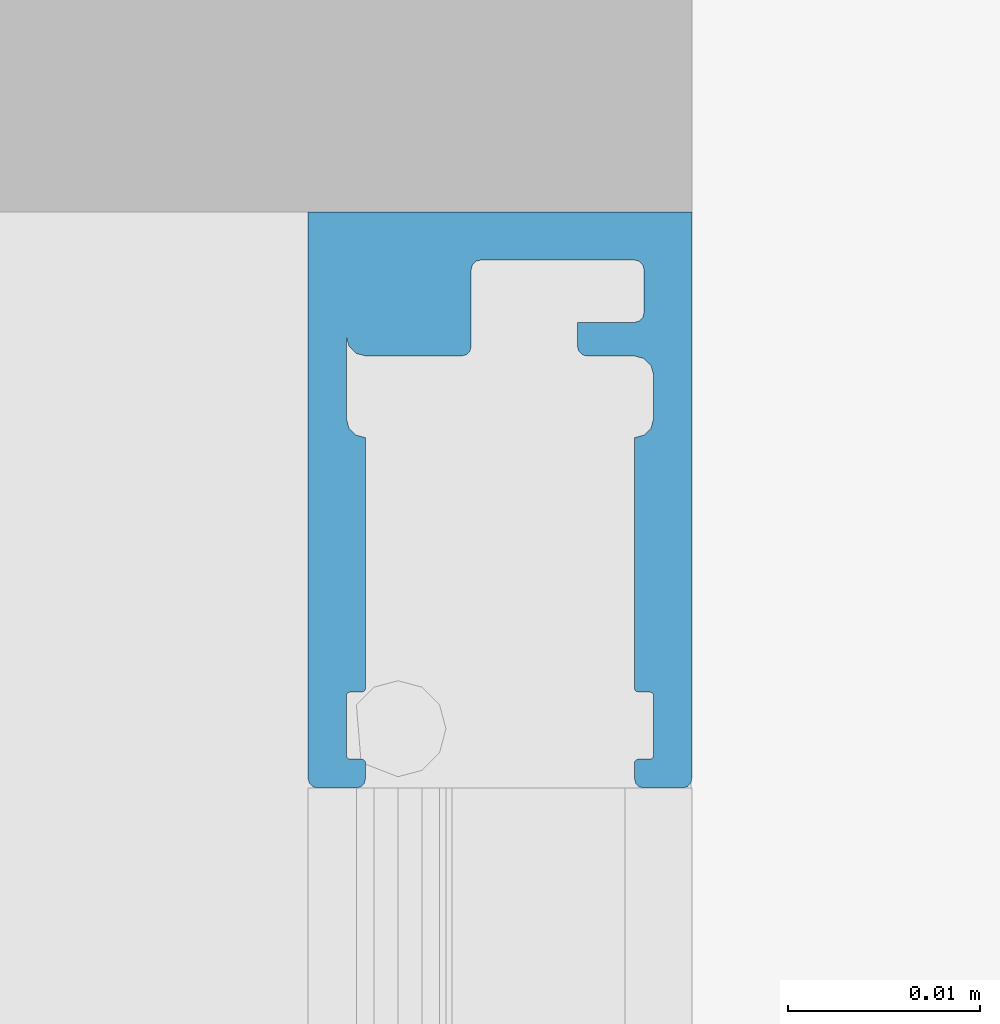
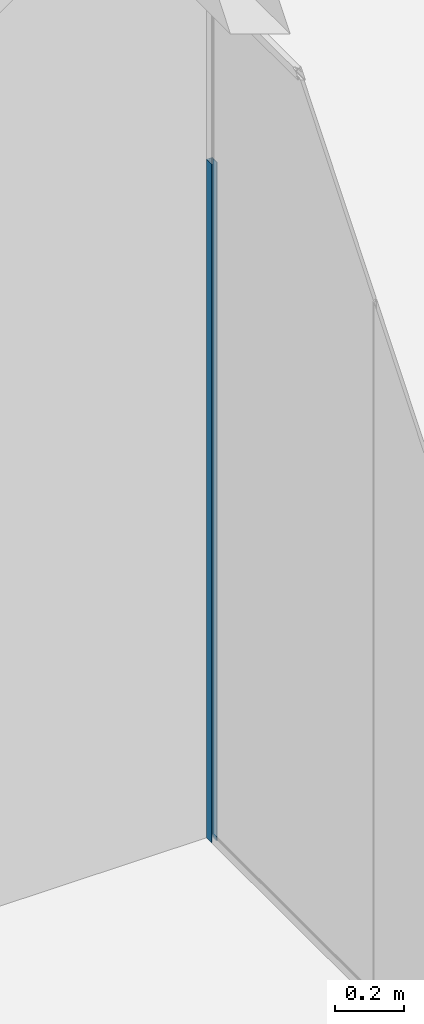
# One storey, part 58 of 387: 1 building element part, 2 elements without a shape of their own.
"""IFC2X3 building model written with IfcOpenShell, lengths in millimetres."""

from ifc_helpers import new_model, entity, si_unit, converted_unit, derived_unit, money_unit, direction, frame, origin_with_axes, place, context, subcontext, project, spatial, faceted_brep, source, transform, mapped, material, type_object, element, aggregate, save


model = new_model("IFC2X3")

# Units and contexts
model_context = context("Model", 3, precision=0.01, world=origin_with_axes(), true_north=direction((0.0, 1.0)))
body_context = subcontext(model_context, "Body", "Model", "MODEL_VIEW")
ifc_project = project(units=[si_unit("LENGTHUNIT", "METRE", prefix="MILLI"), si_unit("AREAUNIT", "SQUARE_METRE"), si_unit("VOLUMEUNIT", "CUBIC_METRE"), converted_unit("PLANEANGLEUNIT", "DEGREE", entity("IfcPlaneAngleMeasure", 0.0174532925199), si_unit("PLANEANGLEUNIT", "RADIAN"), dimensions=[0, 0, 0, 0, 0, 0, 0]), si_unit("SOLIDANGLEUNIT", "STERADIAN"), money_unit("EUR"), converted_unit("TIMEUNIT", "Year", entity("IfcTimeMeasure", 31556926.0), si_unit("TIMEUNIT", "SECOND"), dimensions=[0, 0, 1, 0, 0, 0, 0]), si_unit("MASSUNIT", "GRAM", prefix="KILO"), si_unit("THERMODYNAMICTEMPERATUREUNIT", "DEGREE_CELSIUS"), si_unit("LUMINOUSINTENSITYUNIT", "LUMEN"), si_unit("ENERGYUNIT", "JOULE", prefix="MEGA"), derived_unit("THERMALCONDUCTANCEUNIT", [(si_unit("POWERUNIT", "WATT"), 1), (si_unit("LENGTHUNIT", "METRE"), -1), (si_unit("THERMODYNAMICTEMPERATUREUNIT", "KELVIN"), -1)]), derived_unit("SPECIFICHEATCAPACITYUNIT", [(si_unit("ENERGYUNIT", "JOULE"), 1), (si_unit("MASSUNIT", "GRAM", prefix="KILO"), -1), (si_unit("THERMODYNAMICTEMPERATUREUNIT", "KELVIN"), -1)]), derived_unit("MASSDENSITYUNIT", [(si_unit("MASSUNIT", "GRAM", prefix="KILO"), 1), (si_unit("VOLUMEUNIT", "CUBIC_METRE"), -1)])], contexts=[model_context])

# Site, building, storey
site_placement = place(None, origin_with_axes())
site = spatial("IfcSite", under=ifc_project, at=site_placement, Name="Puškini 31, Narva", CompositionType="ELEMENT")
building_placement = place(site_placement, origin_with_axes())
building = spatial("IfcBuilding", under=site, at=building_placement, Name="Narva Riigigümnaasium", CompositionType="ELEMENT")
storey_placement = place(building_placement, frame((0.0, 0.0, 2640.0), z_axis=(0.0, 0.0, 1.0), x_axis=(1.0, 0.0, 0.0)))
storey = spatial("IfcBuildingStorey", under=building, at=storey_placement, Name="2.korrus +2.64", CompositionType="ELEMENT", Elevation=2640.0)

# Curtain wall, member, building element part
curtain_wall_type = type_object("IfcCurtainWallType", Name="Curtain Wall Type", PredefinedType="NOTDEFINED")
curtain_wall_placement = place(storey_placement, frame((28389.9972784, 173774.499972, -5.2224053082e-05), z_axis=(0.0, 0.0, 1.0), x_axis=(1.0, 0.0, 0.0)))
curtain_wall = element("IfcCurtainWall", 1, at=curtain_wall_placement, inside=storey, type_object=curtain_wall_type, Name="G-SKLF-15.2")
member_type = type_object("IfcMemberType", Name="Boundary Frame 30 x 10", PredefinedType="MULLION")
member_placement = place(curtain_wall_placement, frame((4.30731006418e-08, 1615.50017198, 0.0), z_axis=(0.0, -6.81473233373e-09, 1.0), x_axis=(0.0, -1.0, -6.81473233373e-09)))
member = element("IfcMember", 2, at=member_placement, type_object=member_type, Name="G-SKLF-98-raam", ObjectType="MULLION")
aggregate(curtain_wall, [member])
ifc_material = material(Name="ET-04_Alumiinium")
shared_shape = source(origin_with_axes(), body_context, "Body", "Brep", [
    faceted_brep([(0.0, 9.99999999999, -4.10349964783e-07), (0.0, 9.99999999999, 2400.00005222), (0.0, -9.99999999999, 2400.00005222), (0.0, -9.99999999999, -4.10349964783e-07), (-29.5, 10.0, -4.10349964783e-07), (-29.5, 10.0, 2400.00005222), (-29.75, 9.93301270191, 2400.00005222), (-29.9330127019, 9.75000000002, 2400.00005222), (-30.0, 9.5, 2400.00005222), (-30.0, 7.49999999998, 2400.00005222), (-29.9330127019, 7.24999999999, 2400.00005222), (-29.75, 7.06698729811, 2400.00005222), (-29.5, 7.00000000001, 2400.00005222), (-28.7609519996, 6.99999999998, 2400.00005222), (-28.7, 6.99999999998, 2400.00005222), (-28.6, 7.02679491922, 2400.00005222), (-28.5267949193, 7.09999999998, 2400.00005222), (-28.5, 7.19999999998, 2400.00005222), (-28.5, 7.24760028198, 2400.00005222), (-28.5, 7.76282847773, 2400.00005222), (-28.4849473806, 7.87744178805, 2400.00005222), (-28.4104265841, 7.9658128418, 2400.00005222), (-28.3, 8.00000000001, 2400.00005222), (-25.2, 8.00000000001, 2400.00005222), (-25.1, 7.97320508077, 2400.00005222), (-25.0267949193, 7.90000000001, 2400.00005222), (-25.0, 7.8, 2400.00005222), (-25.0, 7.20000000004, 2400.00005222), (-24.9732050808, 7.10000000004, 2400.00005222), (-24.9, 7.02679491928, 2400.00005222), (-24.8, 7.00000000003, 2400.00005222), (-11.7527616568, 6.99999999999, 2400.00005222), (-11.6187870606, 7.49999999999, 2400.00005222), (-11.2527616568, 7.86602540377, 2400.00005222), (-10.7527616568, 7.99999999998, 2400.00005222), (-6.49999999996, 7.99999999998, 2400.00005222), (-6.99999999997, 7.86602540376, 2400.00005222), (-7.36602540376, 7.49999999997, 2400.00005222), (-7.49999999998, 6.99999999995, 2400.00005222), (-7.49999999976, 2.00000000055, 2400.00005222), (-7.43301270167, 1.75000000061, 2400.00005222), (-7.24999999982, 1.56698729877, 2400.00005222), (-6.99999999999, 1.50000000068, 2400.00005222), (-2.99998847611, 1.50000000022, 2400.00005222), (-2.75096907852, 1.43357737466, 2400.00005222), (-2.56811176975, 1.25195735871, 2400.00005222), (-2.5, 1.00339466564, 2400.00005222), (-2.5, -6.99999999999, 2400.00005222), (-2.56698729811, -7.24999999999, 2400.00005222), (-2.75, -7.43301270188, 2400.00005222), (-3.0, -7.49999999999, 2400.00005222), (-5.24723834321, -7.49999999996, 2400.00005222), (-5.49723834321, -7.43301270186, 2400.00005222), (-5.6802510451, -7.24999999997, 2400.00005222), (-5.7472383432, -6.99999999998, 2400.00005222), (-5.74723834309, -4.03369212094, 2400.00005222), (-7.0, -4.03369212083, 2400.00005222), (-7.24999999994, -4.10067941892, 2400.00005222), (-7.43301270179, -4.28369212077, 2400.00005222), (-7.49999999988, -4.5336921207, 2400.00005222), (-7.49999999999, -7.00000000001, 2400.00005222), (-7.63397459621, -7.50000000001, 2400.00005222), (-7.99999999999, -7.86602540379, 2400.00005222), (-8.49999999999, -8.00000000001, 2400.00005222), (-10.7527616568, -7.99999999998, 2400.00005222), (-11.2527616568, -7.86602540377, 2400.00005222), (-11.6187870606, -7.49999999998, 2400.00005222), (-11.7527616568, -6.99999999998, 2400.00005222), (-24.8, -7.00000000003, 2400.00005222), (-24.9, -7.02679491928, 2400.00005222), (-24.9732050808, -7.10000000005, 2400.00005222), (-25.0, -7.20000000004, 2400.00005222), (-25.0, -7.79999999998, 2400.00005222), (-25.0267949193, -7.89999999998, 2400.00005222), (-25.1, -7.97320508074, 2400.00005222), (-25.2, -7.99999999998, 2400.00005222), (-28.3, -7.99999999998, 2400.00005222), (-28.4, -7.97320508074, 2400.00005222), (-28.4732050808, -7.89999999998, 2400.00005222), (-28.5, -7.79999999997, 2400.00005222), (-28.5, -7.19999999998, 2400.00005222), (-28.5267949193, -7.09999999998, 2400.00005222), (-28.6, -7.02679491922, 2400.00005222), (-28.7, -6.99999999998, 2400.00005222), (-29.5, -6.99999999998, 2400.00005222), (-29.75, -7.06698729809, 2400.00005222), (-29.9330127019, -7.24999999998, 2400.00005222), (-30.0, -7.49999999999, 2400.00005222), (-30.0, -9.5, 2400.00005222), (-29.9224245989, -9.76651288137, 2400.00005222), (-29.7157683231, -9.95182408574, 2400.00005222), (-29.4424074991, -9.99999999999, 2400.00005222), (-29.4424074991, -9.99999999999, -4.10349964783e-07), (-29.7157683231, -9.95182408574, -4.10349964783e-07), (-29.9224245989, -9.76651288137, -4.10349964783e-07), (-30.0, -9.5, -4.10349964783e-07), (-30.0, -7.49999999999, -4.10349964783e-07), (-29.9330127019, -7.24999999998, -4.10349964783e-07), (-29.75, -7.06698729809, -4.10349964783e-07), (-29.5, -6.99999999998, -4.10349964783e-07), (-28.7, -6.99999999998, -4.10349964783e-07), (-28.6, -7.02679491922, -4.10349964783e-07), (-28.5267949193, -7.09999999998, -4.10349964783e-07), (-28.5, -7.19999999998, -4.10349964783e-07), (-28.5, -7.79999999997, -4.10349964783e-07), (-28.4732050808, -7.89999999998, -4.10349964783e-07), (-28.4, -7.97320508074, -4.10349964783e-07), (-28.3, -7.99999999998, -4.10349964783e-07), (-25.2, -7.99999999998, -4.10349964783e-07), (-25.1, -7.97320508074, -4.10349964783e-07), (-25.0267949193, -7.89999999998, -4.10349964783e-07), (-25.0, -7.79999999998, -4.10349964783e-07), (-25.0, -7.20000000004, -4.10349964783e-07), (-24.9732050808, -7.10000000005, -4.10349964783e-07), (-24.9, -7.02679491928, -4.10349964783e-07), (-24.8, -7.00000000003, -4.10349964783e-07), (-11.7527616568, -6.99999999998, -4.10349964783e-07), (-11.6187870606, -7.49999999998, -4.10349964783e-07), (-11.2527616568, -7.86602540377, -4.10349964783e-07), (-10.7527616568, -7.99999999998, -4.10349964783e-07), (-8.49999999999, -8.00000000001, -4.10349964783e-07), (-7.99999999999, -7.86602540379, -4.10349964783e-07), (-7.63397459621, -7.50000000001, -4.10349964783e-07), (-7.49999999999, -7.00000000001, -4.10349964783e-07), (-7.49999999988, -4.5336921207, -4.10349964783e-07), (-7.43301270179, -4.28369212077, -4.10349964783e-07), (-7.24999999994, -4.10067941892, -4.10349964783e-07), (-7.0, -4.03369212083, -4.10349964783e-07), (-5.74723834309, -4.03369212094, -4.10349964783e-07), (-5.7472383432, -6.99999999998, -4.10349964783e-07), (-5.6802510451, -7.24999999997, -4.10349964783e-07), (-5.49723834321, -7.43301270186, -4.10349964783e-07), (-5.24723834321, -7.49999999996, -4.10349964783e-07), (-3.0, -7.49999999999, -4.10349964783e-07), (-2.75, -7.43301270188, -4.10349964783e-07), (-2.56698729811, -7.24999999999, -4.10349964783e-07), (-2.5, -6.99999999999, -4.10349964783e-07), (-2.5, 1.00339466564, -4.10349964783e-07), (-2.56811176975, 1.25195735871, -4.10349964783e-07), (-2.75096907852, 1.43357737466, -4.10349964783e-07), (-2.99998847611, 1.50000000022, -4.10349964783e-07), (-6.99999999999, 1.50000000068, -4.10349964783e-07), (-7.24999999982, 1.56698729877, -4.10349964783e-07), (-7.43301270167, 1.75000000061, -4.10349964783e-07), (-7.49999999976, 2.00000000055, -4.10349964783e-07), (-7.49999999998, 6.99999999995, -4.10349964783e-07), (-7.36602540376, 7.49999999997, -4.10349964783e-07), (-6.99999999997, 7.86602540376, -4.10349964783e-07), (-6.49999999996, 7.99999999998, -4.10349964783e-07), (-10.7527616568, 7.99999999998, -4.10349964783e-07), (-11.2527616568, 7.86602540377, -4.10349964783e-07), (-11.6187870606, 7.49999999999, -4.10349964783e-07), (-11.7527616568, 6.99999999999, -4.10349964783e-07), (-24.8, 7.00000000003, -4.10349964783e-07), (-24.9, 7.02679491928, -4.10349964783e-07), (-24.9732050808, 7.10000000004, -4.10349964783e-07), (-25.0, 7.20000000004, -4.10349964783e-07), (-25.0, 7.8, -4.10349964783e-07), (-25.0267949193, 7.90000000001, -4.10349964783e-07), (-25.1, 7.97320508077, -4.10349964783e-07), (-25.2, 8.00000000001, -4.10349964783e-07), (-28.3, 8.00000000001, -4.10349964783e-07), (-28.4104265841, 7.9658128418, -4.10349964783e-07), (-28.4849473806, 7.87744178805, -4.10349964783e-07), (-28.5, 7.76282847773, -4.10349964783e-07), (-28.5, 7.24760028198, -4.10349964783e-07), (-28.5, 7.19999999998, -4.10349964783e-07), (-28.5267949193, 7.09999999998, -4.10349964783e-07), (-28.6, 7.02679491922, -4.10349964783e-07), (-28.7, 6.99999999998, -4.10349964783e-07), (-28.7609519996, 6.99999999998, -4.10349964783e-07), (-29.5, 7.00000000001, -4.10349964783e-07), (-29.75, 7.06698729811, -4.10349964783e-07), (-29.9330127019, 7.24999999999, -4.10349964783e-07), (-30.0, 7.49999999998, -4.10349964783e-07), (-30.0, 9.5, -4.10349964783e-07), (-29.9330127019, 9.75000000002, -4.10349964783e-07), (-29.75, 9.93301270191, -4.10349964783e-07)], [[[0, 1, 2, 3]], [[4, 5, 1, 0]], [[1, 5, 6, 7, 8, 9, 10, 11, 12, 13, 14, 15, 16, 17, 18, 19, 20, 21, 22, 23, 24, 25, 26, 27, 28, 29, 30, 31, 32, 33, 34, 35, 36, 37, 38, 39, 40, 41, 42, 43, 44, 45, 46, 47, 48, 49, 50, 51, 52, 53, 54, 55, 56, 57, 58, 59, 60, 61, 62, 63, 64, 65, 66, 67, 68, 69, 70, 71, 72, 73, 74, 75, 76, 77, 78, 79, 80, 81, 82, 83, 84, 85, 86, 87, 88, 89, 90, 91, 2]], [[3, 2, 91, 92]], [[0, 3, 92, 93, 94, 95, 96, 97, 98, 99, 100, 101, 102, 103, 104, 105, 106, 107, 108, 109, 110, 111, 112, 113, 114, 115, 116, 117, 118, 119, 120, 121, 122, 123, 124, 125, 126, 127, 128, 129, 130, 131, 132, 133, 134, 135, 136, 137, 138, 139, 140, 141, 142, 143, 144, 145, 146, 147, 148, 149, 150, 151, 152, 153, 154, 155, 156, 157, 158, 159, 160, 161, 162, 163, 164, 165, 166, 167, 168, 169, 170, 171, 172, 173, 174, 175, 176, 177, 4]], [[177, 6, 5, 4]], [[176, 7, 6, 177]], [[175, 8, 7, 176]], [[174, 9, 8, 175]], [[173, 10, 9, 174]], [[172, 11, 10, 173]], [[171, 12, 11, 172]], [[170, 13, 12, 171]], [[169, 14, 13, 170]], [[168, 15, 14, 169]], [[167, 16, 15, 168]], [[166, 17, 16, 167]], [[165, 18, 17, 166]], [[164, 19, 18, 165]], [[163, 20, 19, 164]], [[162, 21, 20, 163]], [[161, 22, 21, 162]], [[160, 23, 22, 161]], [[159, 24, 23, 160]], [[158, 25, 24, 159]], [[157, 26, 25, 158]], [[156, 27, 26, 157]], [[155, 28, 27, 156]], [[154, 29, 28, 155]], [[153, 30, 29, 154]], [[152, 31, 30, 153]], [[151, 32, 31, 152]], [[150, 33, 32, 151]], [[149, 34, 33, 150]], [[148, 35, 34, 149]], [[147, 36, 35, 148]], [[146, 37, 36, 147]], [[145, 38, 37, 146]], [[144, 39, 38, 145]], [[143, 40, 39, 144]], [[142, 41, 40, 143]], [[141, 42, 41, 142]], [[140, 43, 42, 141]], [[139, 44, 43, 140]], [[138, 45, 44, 139]], [[137, 46, 45, 138]], [[136, 47, 46, 137]], [[135, 48, 47, 136]], [[134, 49, 48, 135]], [[133, 50, 49, 134]], [[132, 51, 50, 133]], [[131, 52, 51, 132]], [[130, 53, 52, 131]], [[129, 54, 53, 130]], [[128, 55, 54, 129]], [[127, 56, 55, 128]], [[126, 57, 56, 127]], [[125, 58, 57, 126]], [[124, 59, 58, 125]], [[123, 60, 59, 124]], [[122, 61, 60, 123]], [[121, 62, 61, 122]], [[120, 63, 62, 121]], [[119, 64, 63, 120]], [[118, 65, 64, 119]], [[117, 66, 65, 118]], [[116, 67, 66, 117]], [[115, 68, 67, 116]], [[114, 69, 68, 115]], [[113, 70, 69, 114]], [[112, 71, 70, 113]], [[111, 72, 71, 112]], [[110, 73, 72, 111]], [[109, 74, 73, 110]], [[108, 75, 74, 109]], [[107, 76, 75, 108]], [[106, 77, 76, 107]], [[105, 78, 77, 106]], [[104, 79, 78, 105]], [[103, 80, 79, 104]], [[102, 81, 80, 103]], [[101, 82, 81, 102]], [[100, 83, 82, 101]], [[99, 84, 83, 100]], [[98, 85, 84, 99]], [[97, 86, 85, 98]], [[96, 87, 86, 97]], [[95, 88, 87, 96]], [[94, 89, 88, 95]], [[93, 90, 89, 94]], [[92, 91, 90, 93]]]),
])
building_element_part_placement = place(member_placement, origin_with_axes())
building_element_part = element("IfcBuildingElementPart", 3, at=building_element_part_placement, material=ifc_material, Name="ET-04_Alumiinium", context=body_context, shape_type="MappedRepresentation", body=[
    mapped(shared_shape, transform((0.0, 0.0, 0.0), x_axis=(-1.0, 0.0, -6.81473233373e-09), y_axis=(0.0, -1.0, 0.0), z_axis=(-6.81473233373e-09, 0.0, 1.0))),
])
aggregate(member, [building_element_part])

save(model, "model.ifc")
